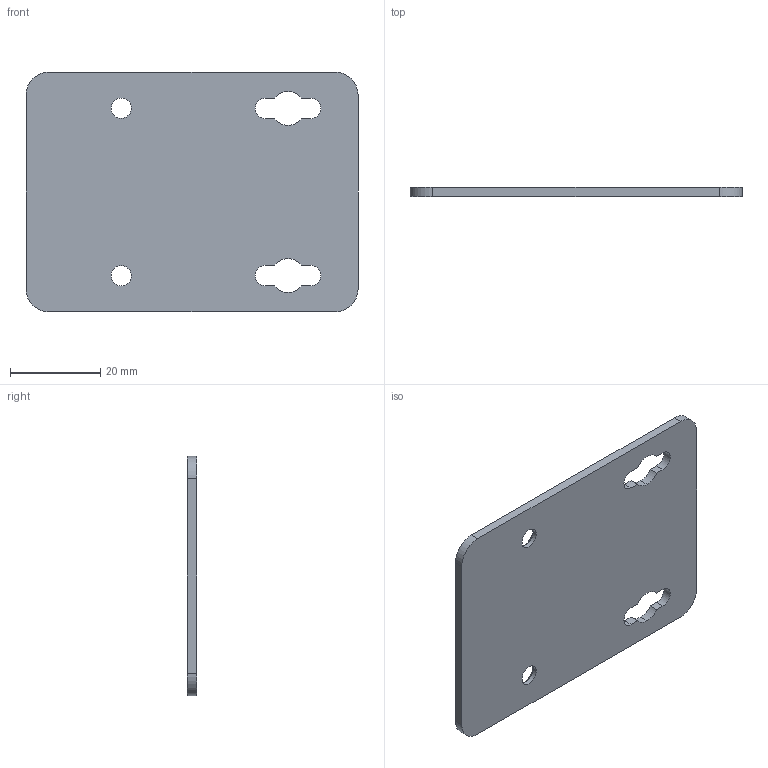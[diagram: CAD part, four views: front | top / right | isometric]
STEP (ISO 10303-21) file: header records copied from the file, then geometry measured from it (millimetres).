
FILE_DESCRIPTION((''),'2;1');
FILE_NAME('BOOK_MOUNT_BRACKET_S_PERF','2021-03-10T12:20:33',('SESA22768'),('Schneider-Electric'),'CREO PARAMETRIC BY PTC INC, 2019164','CREO PARAMETRIC BY PTC INC, 2019164','');
FILE_SCHEMA(('AP242_MANAGED_MODEL_BASED_3D_ENGINEERING_MIM_LF { 1 0 10303 442 1 1 4 }'));
Length unit declared in the file: millimetre
Products named in the file (1): BOOK_MOUNT_BRACKET_S_PERF
Bounding box: 73.5 x 2 x 53 mm (x, y, z)
Volume: 7374.3 mm3; surface area: 8066.1 mm2
Topology: 1 solids, 1 shells, 38 faces, 146 edges, 124 vertices
Faces by surface type: cylinder 20, plane 14, cone 4
Entity records: 2519 total; most frequent: DIRECTION 316, CARTESIAN_POINT 288, ORIENTED_EDGE 208, PRESENTATION_STYLE_ASSIGNMENT 162, STYLED_ITEM 162, CURVE_STYLE 159, AXIS2_PLACEMENT_3D 111, EDGE_CURVE 104
